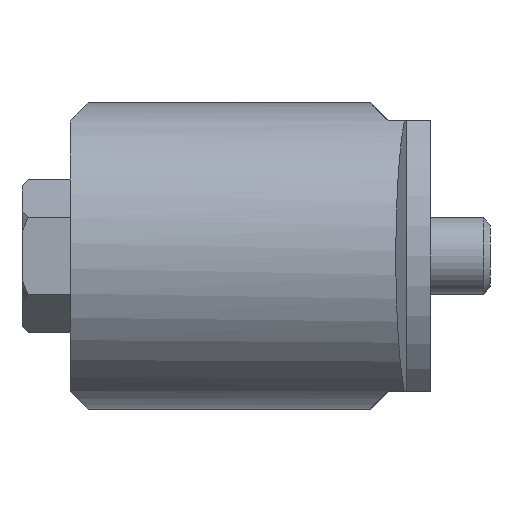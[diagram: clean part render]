
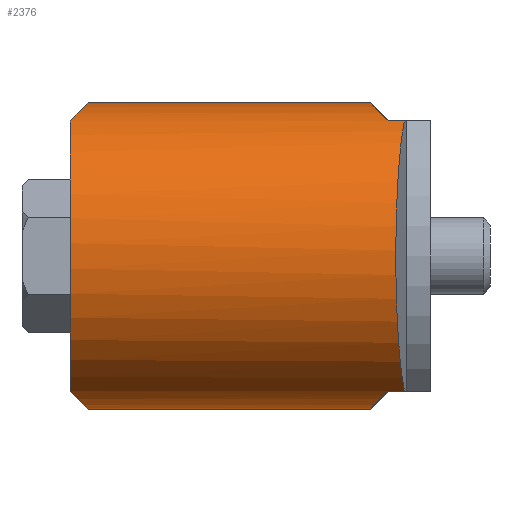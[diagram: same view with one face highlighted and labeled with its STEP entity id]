
A CAD part, left-side view. The second image highlights one B-rep face of the part: STEP entity #2376.
In plain terms, the highlighted cylindrical face has radius 12.75 mm (diameter 25.5 mm), a partial arc.
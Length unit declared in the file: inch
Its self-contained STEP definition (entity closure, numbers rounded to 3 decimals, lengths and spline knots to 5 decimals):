
#117=ELLIPSE('',#2537,0.70989,0.50197);
#118=ELLIPSE('',#2540,0.70989,0.50197);
#119=ELLIPSE('',#2543,0.70989,0.50197);
#120=ELLIPSE('',#2545,0.70989,0.50197);
#121=ELLIPSE('',#2549,0.50473,0.50197);
#228=FACE_OUTER_BOUND('',#363,.T.);
#363=EDGE_LOOP('',(#1563,#1564,#1565,#1566,#1567,#1568,#1569,#1570,#1571,
#1572));
#517=LINE('',#3534,#645);
#530=LINE('',#3564,#658);
#539=LINE('',#3589,#667);
#540=LINE('',#3591,#668);
#645=VECTOR('',#2843,0.3937);
#658=VECTOR('',#2862,0.3937);
#667=VECTOR('',#2889,0.3937);
#668=VECTOR('',#2892,0.3937);
#777=CIRCLE('',#2551,0.50197);
#927=VERTEX_POINT('',#3524);
#928=VERTEX_POINT('',#3525);
#931=VERTEX_POINT('',#3533);
#936=VERTEX_POINT('',#3545);
#937=VERTEX_POINT('',#3546);
#944=VERTEX_POINT('',#3561);
#945=VERTEX_POINT('',#3563);
#947=VERTEX_POINT('',#3569);
#949=VERTEX_POINT('',#3575);
#950=VERTEX_POINT('',#3576);
#1174=EDGE_CURVE('',#927,#928,#117,.T.);
#1178=EDGE_CURVE('',#928,#931,#517,.T.);
#1184=EDGE_CURVE('',#936,#937,#118,.T.);
#1192=EDGE_CURVE('',#945,#944,#530,.T.);
#1195=EDGE_CURVE('',#944,#947,#119,.T.);
#1198=EDGE_CURVE('',#949,#950,#120,.T.);
#1204=EDGE_CURVE('',#931,#945,#121,.T.);
#1205=EDGE_CURVE('',#947,#949,#539,.T.);
#1206=EDGE_CURVE('',#936,#950,#777,.T.);
#1207=EDGE_CURVE('',#927,#937,#540,.T.);
#1563=ORIENTED_EDGE('',*,*,#1174,.T.);
#1564=ORIENTED_EDGE('',*,*,#1178,.T.);
#1565=ORIENTED_EDGE('',*,*,#1204,.T.);
#1566=ORIENTED_EDGE('',*,*,#1192,.T.);
#1567=ORIENTED_EDGE('',*,*,#1195,.T.);
#1568=ORIENTED_EDGE('',*,*,#1205,.T.);
#1569=ORIENTED_EDGE('',*,*,#1198,.T.);
#1570=ORIENTED_EDGE('',*,*,#1206,.F.);
#1571=ORIENTED_EDGE('',*,*,#1184,.T.);
#1572=ORIENTED_EDGE('',*,*,#1207,.F.);
#2195=CYLINDRICAL_SURFACE('',#2550,0.50197);
#2376=ADVANCED_FACE('',(#228),#2195,.T.);
#2537=AXIS2_PLACEMENT_3D('',#3526,#2836,#2837);
#2540=AXIS2_PLACEMENT_3D('',#3547,#2851,#2852);
#2543=AXIS2_PLACEMENT_3D('',#3570,#2867,#2868);
#2545=AXIS2_PLACEMENT_3D('',#3577,#2873,#2874);
#2549=AXIS2_PLACEMENT_3D('',#3587,#2885,#2886);
#2550=AXIS2_PLACEMENT_3D('',#3588,#2887,#2888);
#2551=AXIS2_PLACEMENT_3D('',#3590,#2890,#2891);
#2836=DIRECTION('center_axis',(0.,0.707,0.707));
#2837=DIRECTION('ref_axis',(0.,-0.707,0.707));
#2843=DIRECTION('',(0.,-1.,0.));
#2851=DIRECTION('center_axis',(0.,-0.707,0.707));
#2852=DIRECTION('ref_axis',(0.,0.707,0.707));
#2862=DIRECTION('',(0.,1.,0.));
#2867=DIRECTION('center_axis',(0.,0.707,-0.707));
#2868=DIRECTION('ref_axis',(0.,0.707,0.707));
#2873=DIRECTION('center_axis',(0.,-0.707,-0.707));
#2874=DIRECTION('ref_axis',(0.,-0.707,0.707));
#2885=DIRECTION('center_axis',(0.105,0.995,0.));
#2886=DIRECTION('ref_axis',(-0.995,0.105,0.));
#2887=DIRECTION('center_axis',(0.,-1.,0.));
#2888=DIRECTION('ref_axis',(0.,0.,1.));
#2889=DIRECTION('',(0.,1.,0.));
#2890=DIRECTION('center_axis',(0.,1.,0.));
#2891=DIRECTION('ref_axis',(0.,0.,1.));
#2892=DIRECTION('',(0.,1.,0.));
#3524=CARTESIAN_POINT('',(-0.65997,-0.4875,-0.50197));
#3525=CARTESIAN_POINT('',(-0.89619,-0.54655,-0.44291));
#3526=CARTESIAN_POINT('Origin',(-0.65997,-0.98947,0.));
#3533=CARTESIAN_POINT('',(-0.89619,-0.60002,-0.44291));
#3534=CARTESIAN_POINT('',(-0.89619,0.49675,-0.44291));
#3545=CARTESIAN_POINT('',(-0.89619,0.49675,-0.44291));
#3546=CARTESIAN_POINT('',(-0.65997,0.4377,-0.50197));
#3547=CARTESIAN_POINT('Origin',(-0.65997,0.93967,0.));
#3561=CARTESIAN_POINT('',(-0.89619,-0.54655,0.44291));
#3563=CARTESIAN_POINT('',(-0.89619,-0.60002,0.44291));
#3564=CARTESIAN_POINT('',(-0.89619,0.49675,0.44291));
#3569=CARTESIAN_POINT('',(-0.65997,-0.4875,0.50197));
#3570=CARTESIAN_POINT('Origin',(-0.65997,-0.98947,0.));
#3575=CARTESIAN_POINT('',(-0.65997,0.4377,0.50197));
#3576=CARTESIAN_POINT('',(-0.89619,0.49675,0.44291));
#3577=CARTESIAN_POINT('Origin',(-0.65997,0.93967,0.));
#3587=CARTESIAN_POINT('Origin',(-0.65997,-0.62485,0.));
#3588=CARTESIAN_POINT('Origin',(-0.65997,0.49675,0.));
#3589=CARTESIAN_POINT('',(-0.65997,0.49675,0.50197));
#3590=CARTESIAN_POINT('Origin',(-0.65997,0.49675,0.));
#3591=CARTESIAN_POINT('',(-0.65997,0.49675,-0.50197));
